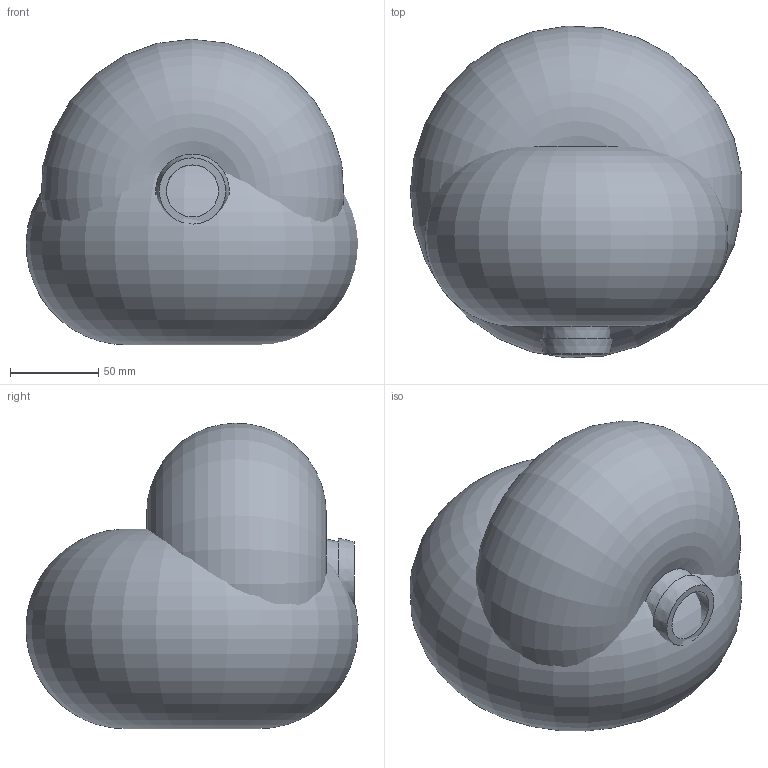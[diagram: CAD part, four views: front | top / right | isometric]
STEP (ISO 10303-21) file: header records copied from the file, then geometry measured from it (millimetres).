
FILE_DESCRIPTION(/* description */ ('Alibre Inc.'),/* implementation_level */ '2;1');
FILE_NAME(/* name */ 'export0',/* time_stamp */ '2016-11-29T15:18:34-05:00',/* author */ (''),/* organization */ (''),/* preprocessor_version */ 'ST-DEVELOPER v14',/* originating_system */ 'Alibre',/* authorisation */ '');
FILE_SCHEMA (('CONFIG_CONTROL_DESIGN'));
Length unit declared in the file: centimetre
Products named in the file (1): ID_1
Bounding box: 187.58 x 187.85 x 172.88 mm (x, y, z)
Volume: 4059666.4 mm3; surface area: 214821.4 mm2
Topology: 1 solids, 1 shells, 65 faces, 165 edges, 109 vertices
Faces by surface type: cone 38, plane 12, cylinder 6, bspline 5, torus 4
Full cylindrical faces by diameter (mm): 44.45 x5
Entity records: 30911 total; most frequent: CARTESIAN_POINT 29577, ORIENTED_EDGE 274, DIRECTION 188, EDGE_CURVE 137, VERTEX_POINT 98, AXIS2_PLACEMENT_3D 88, EDGE_LOOP 85, FACE_BOUND 85
